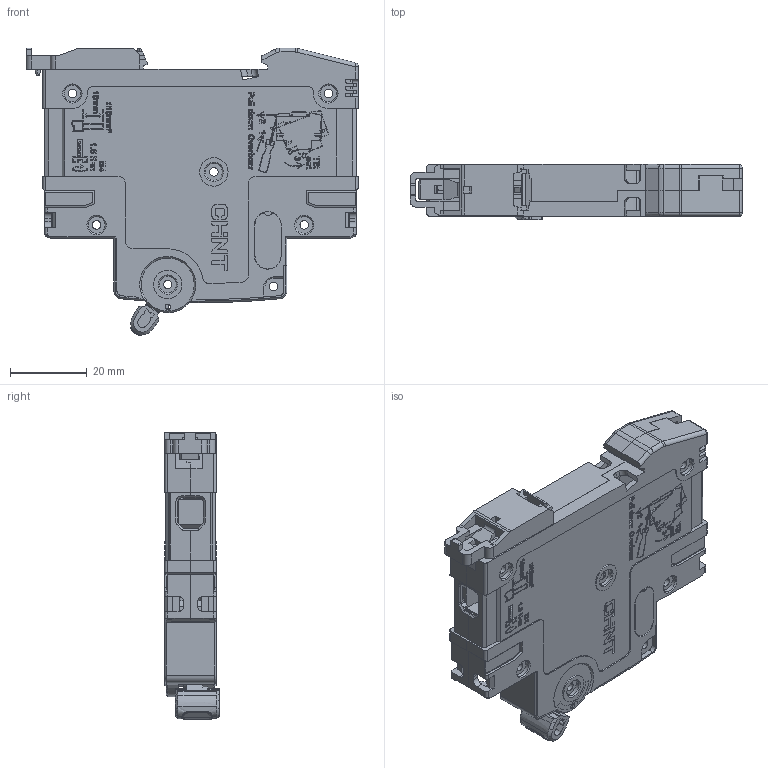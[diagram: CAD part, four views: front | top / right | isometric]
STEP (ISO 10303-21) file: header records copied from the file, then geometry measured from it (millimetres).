
FILE_DESCRIPTION((''),'2;1');
FILE_NAME('NB8-40J_1P2023070001_ASM','2023-07-19T15:52:00',('huchaow'),(''),'CREO PARAMETRIC BY PTC INC, 2020044','CREO PARAMETRIC BY PTC INC, 2020044','');
FILE_SCHEMA(('CONFIG_CONTROL_DESIGN','SHAPE_APPEARANCE_LAYERS_GROUPS'));
Products named in the file (1): NB8-40J_1P2023070001_ASM
Bounding box: 86.37 x 14.26 x 74.85 mm (x, y, z)
Surface area: 37424.1 mm2 (no closed solid volume)
Topology: 0 solids, 17 shells, 4456 faces, 12397 edges, 8191 vertices
Faces by surface type: plane 3205, cylinder 647, extrusion 410, cone 145, bspline 36, torus 11, sphere 2
Entity records: 195302 total; most frequent: CARTESIAN_POINT 32763, ORIENTED_EDGE 24792, DIRECTION 21240, EDGE_CURVE 12396, VECTOR 10078, LINE 9668, VERTEX_POINT 8193, FILL_AREA_STYLE_COLOUR 7869
